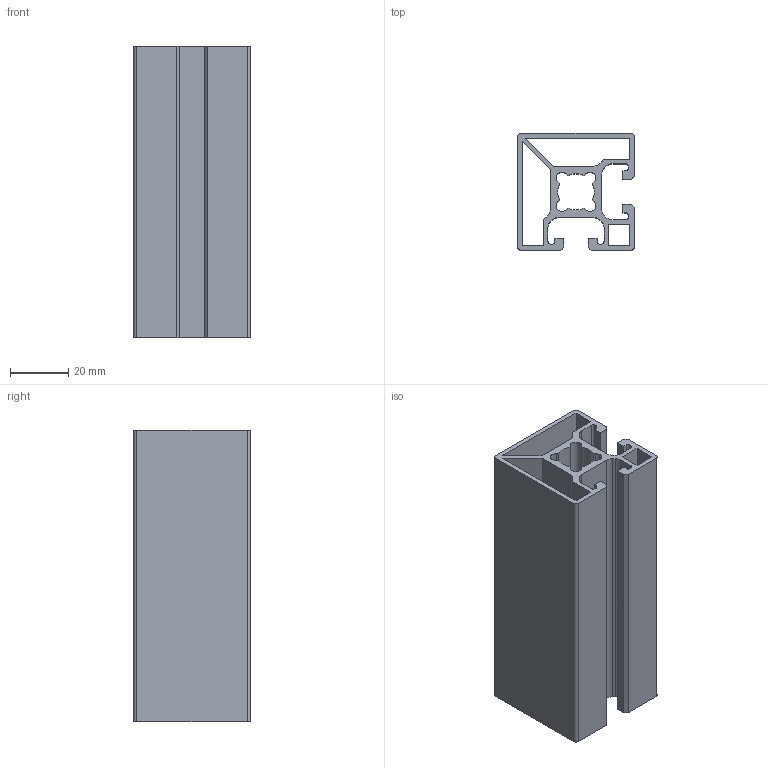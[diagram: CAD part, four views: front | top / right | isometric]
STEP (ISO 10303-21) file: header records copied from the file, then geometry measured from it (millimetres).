
FILE_DESCRIPTION((''),'2;1');
FILE_NAME('C:\Users\de2afr0\Desktop\New folder\MS40+ B - L 40x40.stp','2014-02-28T13:07:12',('de2afr0'),(''),'Autodesk Inventor 2011','Autodesk Inventor 2011','');
FILE_SCHEMA(('AUTOMOTIVE_DESIGN { 1 0 10303 214 1 1 1 1 }'));
Length unit declared in the file: millimetre
Products named in the file (1): MB01158801
Bounding box: 40 x 40 x 100 mm (x, y, z)
Volume: 49370.7 mm3; surface area: 51009.2 mm2
Topology: 1 solids, 1 shells, 94 faces, 276 edges, 184 vertices
Faces by surface type: plane 62, cylinder 32
Entity records: 3166 total; most frequent: CARTESIAN_POINT 555, ORIENTED_EDGE 552, DIRECTION 530, EDGE_CURVE 276, VECTOR 212, LINE 212, VERTEX_POINT 184, AXIS2_PLACEMENT_3D 159
